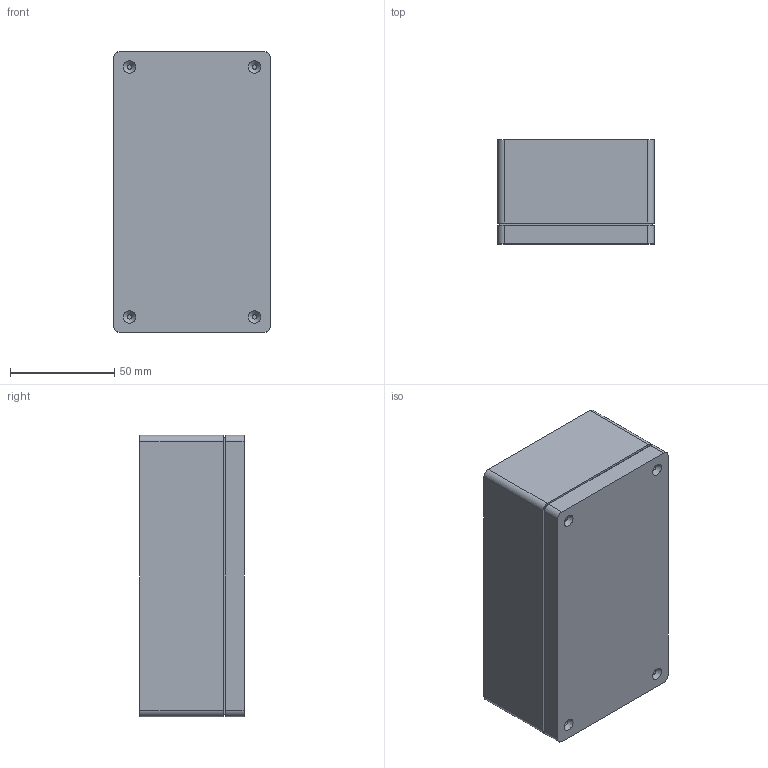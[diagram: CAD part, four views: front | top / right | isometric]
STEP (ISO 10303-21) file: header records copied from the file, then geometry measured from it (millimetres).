
FILE_DESCRIPTION(('STEP AP203'), '1');
FILE_NAME('栖闉罻', '', ('UNSPECIFIED'), ('UNSPECIFIED'), 'ASCON STEP Converter 1.3', 'ASCON Math Kernel', '');
FILE_SCHEMA(('CONFIG_CONTROL_DESIGN'));
Length unit declared in the file: millimetre
Assembly tree (2 placements, depth 2):
  (unnamed)
    (unnamed)
    (unnamed)
Bounding box: 75 x 50 x 135 mm (x, y, z)
Volume: 108130 mm3; surface area: 87380.8 mm2
Topology: 2 solids, 2 shells, 249 faces, 668 edges, 444 vertices
Faces by surface type: plane 213, cylinder 32, cone 4
Full cylindrical faces by diameter (mm): 2.2 x12, 5.5 x12
Entity records: 9714 total; most frequent: CARTESIAN_POINT 1336, ORIENTED_EDGE 1280, DIRECTION 1228, EDGE_CURVE 640, LINE 556, VECTOR 556, VERTEX_POINT 444, AXIS2_PLACEMENT_3D 336
